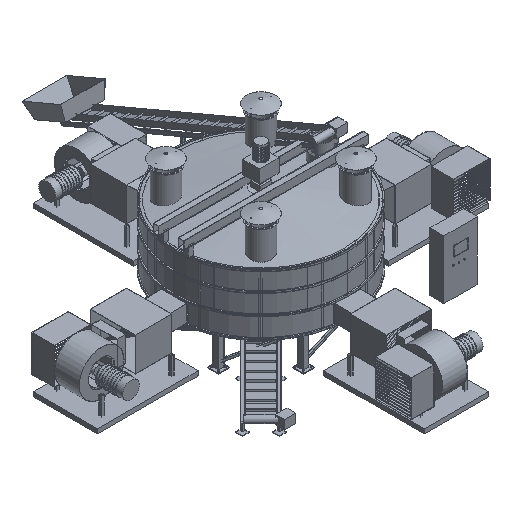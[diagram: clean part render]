
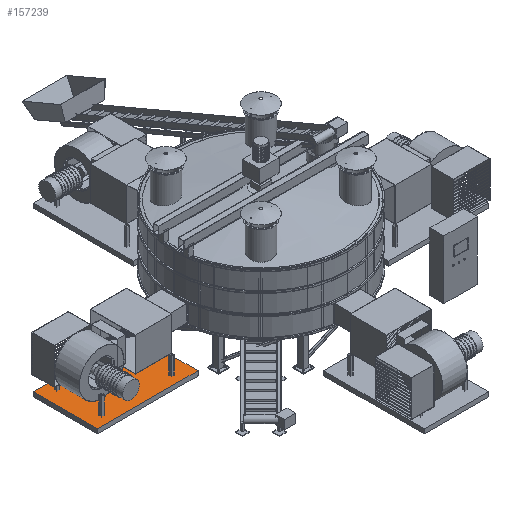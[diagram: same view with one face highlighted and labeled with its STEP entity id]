
A CAD part, isometric view. The second image highlights one B-rep face of the part: STEP entity #157239.
In plain terms, the highlighted planar face has unit normal (0, 0, 1).
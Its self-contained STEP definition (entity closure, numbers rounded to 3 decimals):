
#156925 = VERTEX_POINT('',#156926);
#156926 = CARTESIAN_POINT('',(-3400.,1150.,370.));
#156933 = PLANE('',#156934);
#156934 = AXIS2_PLACEMENT_3D('',#156935,#156936,#156937);
#156935 = CARTESIAN_POINT('',(-3400.,1150.,210.));
#156936 = DIRECTION('',(-1.,0.,0.));
#156937 = DIRECTION('',(0.,0.,1.));
#156945 = PLANE('',#156946);
#156946 = AXIS2_PLACEMENT_3D('',#156947,#156948,#156949);
#156947 = CARTESIAN_POINT('',(-3400.,1150.,210.));
#156948 = DIRECTION('',(0.,-1.,0.));
#156949 = DIRECTION('',(0.,0.,1.));
#156986 = VERTEX_POINT('',#156987);
#156987 = CARTESIAN_POINT('',(-3400.,-1150.,370.));
#157001 = PLANE('',#157002);
#157002 = AXIS2_PLACEMENT_3D('',#157003,#157004,#157005);
#157003 = CARTESIAN_POINT('',(-3400.,-1150.,210.));
#157004 = DIRECTION('',(0.,-1.,0.));
#157005 = DIRECTION('',(0.,0.,1.));
#157013 = EDGE_CURVE('',#156925,#156986,#157014,.T.);
#157014 = SURFACE_CURVE('',#157015,(#157019,#157026),.PCURVE_S1.);
#157015 = LINE('',#157016,#157017);
#157016 = CARTESIAN_POINT('',(-3400.,1150.,370.));
#157017 = VECTOR('',#157018,1.);
#157018 = DIRECTION('',(0.,-1.,0.));
#157019 = PCURVE('',#156933,#157020);
#157020 = DEFINITIONAL_REPRESENTATION('',(#157021),#157025);
#157021 = LINE('',#157022,#157023);
#157022 = CARTESIAN_POINT('',(160.,0.));
#157023 = VECTOR('',#157024,1.);
#157024 = DIRECTION('',(0.,-1.));
#157025 = ( GEOMETRIC_REPRESENTATION_CONTEXT(2) 
PARAMETRIC_REPRESENTATION_CONTEXT() REPRESENTATION_CONTEXT('2D SPACE',''
  ) );
#157026 = PCURVE('',#157027,#157032);
#157027 = PLANE('',#157028);
#157028 = AXIS2_PLACEMENT_3D('',#157029,#157030,#157031);
#157029 = CARTESIAN_POINT('',(-3400.,1150.,370.));
#157030 = DIRECTION('',(0.,0.,1.));
#157031 = DIRECTION('',(-1.,0.,0.));
#157032 = DEFINITIONAL_REPRESENTATION('',(#157033),#157037);
#157033 = LINE('',#157034,#157035);
#157034 = CARTESIAN_POINT('',(0.,0.));
#157035 = VECTOR('',#157036,1.);
#157036 = DIRECTION('',(0.,1.));
#157037 = ( GEOMETRIC_REPRESENTATION_CONTEXT(2) 
PARAMETRIC_REPRESENTATION_CONTEXT() REPRESENTATION_CONTEXT('2D SPACE',''
  ) );
#157045 = VERTEX_POINT('',#157046);
#157046 = CARTESIAN_POINT('',(-7000.,1150.,370.));
#157053 = PLANE('',#157054);
#157054 = AXIS2_PLACEMENT_3D('',#157055,#157056,#157057);
#157055 = CARTESIAN_POINT('',(-7000.,1150.,210.));
#157056 = DIRECTION('',(-1.,0.,0.));
#157057 = DIRECTION('',(0.,0.,1.));
#157096 = VERTEX_POINT('',#157097);
#157097 = CARTESIAN_POINT('',(-7000.,-1150.,370.));
#157118 = EDGE_CURVE('',#157045,#157096,#157119,.T.);
#157119 = SURFACE_CURVE('',#157120,(#157124,#157131),.PCURVE_S1.);
#157120 = LINE('',#157121,#157122);
#157121 = CARTESIAN_POINT('',(-7000.,1150.,370.));
#157122 = VECTOR('',#157123,1.);
#157123 = DIRECTION('',(0.,-1.,0.));
#157124 = PCURVE('',#157053,#157125);
#157125 = DEFINITIONAL_REPRESENTATION('',(#157126),#157130);
#157126 = LINE('',#157127,#157128);
#157127 = CARTESIAN_POINT('',(160.,0.));
#157128 = VECTOR('',#157129,1.);
#157129 = DIRECTION('',(0.,-1.));
#157130 = ( GEOMETRIC_REPRESENTATION_CONTEXT(2) 
PARAMETRIC_REPRESENTATION_CONTEXT() REPRESENTATION_CONTEXT('2D SPACE',''
  ) );
#157131 = PCURVE('',#157027,#157132);
#157132 = DEFINITIONAL_REPRESENTATION('',(#157133),#157137);
#157133 = LINE('',#157134,#157135);
#157134 = CARTESIAN_POINT('',(3600.,0.));
#157135 = VECTOR('',#157136,1.);
#157136 = DIRECTION('',(0.,1.));
#157137 = ( GEOMETRIC_REPRESENTATION_CONTEXT(2) 
PARAMETRIC_REPRESENTATION_CONTEXT() REPRESENTATION_CONTEXT('2D SPACE',''
  ) );
#157164 = EDGE_CURVE('',#156925,#157045,#157165,.T.);
#157165 = SURFACE_CURVE('',#157166,(#157170,#157177),.PCURVE_S1.);
#157166 = LINE('',#157167,#157168);
#157167 = CARTESIAN_POINT('',(-3400.,1150.,370.));
#157168 = VECTOR('',#157169,1.);
#157169 = DIRECTION('',(-1.,0.,0.));
#157170 = PCURVE('',#156945,#157171);
#157171 = DEFINITIONAL_REPRESENTATION('',(#157172),#157176);
#157172 = LINE('',#157173,#157174);
#157173 = CARTESIAN_POINT('',(160.,0.));
#157174 = VECTOR('',#157175,1.);
#157175 = DIRECTION('',(0.,1.));
#157176 = ( GEOMETRIC_REPRESENTATION_CONTEXT(2) 
PARAMETRIC_REPRESENTATION_CONTEXT() REPRESENTATION_CONTEXT('2D SPACE',''
  ) );
#157177 = PCURVE('',#157027,#157178);
#157178 = DEFINITIONAL_REPRESENTATION('',(#157179),#157183);
#157179 = LINE('',#157180,#157181);
#157180 = CARTESIAN_POINT('',(0.,0.));
#157181 = VECTOR('',#157182,1.);
#157182 = DIRECTION('',(1.,0.));
#157183 = ( GEOMETRIC_REPRESENTATION_CONTEXT(2) 
PARAMETRIC_REPRESENTATION_CONTEXT() REPRESENTATION_CONTEXT('2D SPACE',''
  ) );
#157211 = EDGE_CURVE('',#156986,#157096,#157212,.T.);
#157212 = SURFACE_CURVE('',#157213,(#157217,#157224),.PCURVE_S1.);
#157213 = LINE('',#157214,#157215);
#157214 = CARTESIAN_POINT('',(-3400.,-1150.,370.));
#157215 = VECTOR('',#157216,1.);
#157216 = DIRECTION('',(-1.,0.,0.));
#157217 = PCURVE('',#157001,#157218);
#157218 = DEFINITIONAL_REPRESENTATION('',(#157219),#157223);
#157219 = LINE('',#157220,#157221);
#157220 = CARTESIAN_POINT('',(160.,0.));
#157221 = VECTOR('',#157222,1.);
#157222 = DIRECTION('',(0.,1.));
#157223 = ( GEOMETRIC_REPRESENTATION_CONTEXT(2) 
PARAMETRIC_REPRESENTATION_CONTEXT() REPRESENTATION_CONTEXT('2D SPACE',''
  ) );
#157224 = PCURVE('',#157027,#157225);
#157225 = DEFINITIONAL_REPRESENTATION('',(#157226),#157230);
#157226 = LINE('',#157227,#157228);
#157227 = CARTESIAN_POINT('',(0.,2300.));
#157228 = VECTOR('',#157229,1.);
#157229 = DIRECTION('',(1.,0.));
#157230 = ( GEOMETRIC_REPRESENTATION_CONTEXT(2) 
PARAMETRIC_REPRESENTATION_CONTEXT() REPRESENTATION_CONTEXT('2D SPACE',''
  ) );
#157239 = ADVANCED_FACE('',(#157240),#157027,.T.);
#157240 = FACE_BOUND('',#157241,.T.);
#157241 = EDGE_LOOP('',(#157242,#157243,#157244,#157245));
#157242 = ORIENTED_EDGE('',*,*,#157013,.F.);
#157243 = ORIENTED_EDGE('',*,*,#157164,.T.);
#157244 = ORIENTED_EDGE('',*,*,#157118,.T.);
#157245 = ORIENTED_EDGE('',*,*,#157211,.F.);
